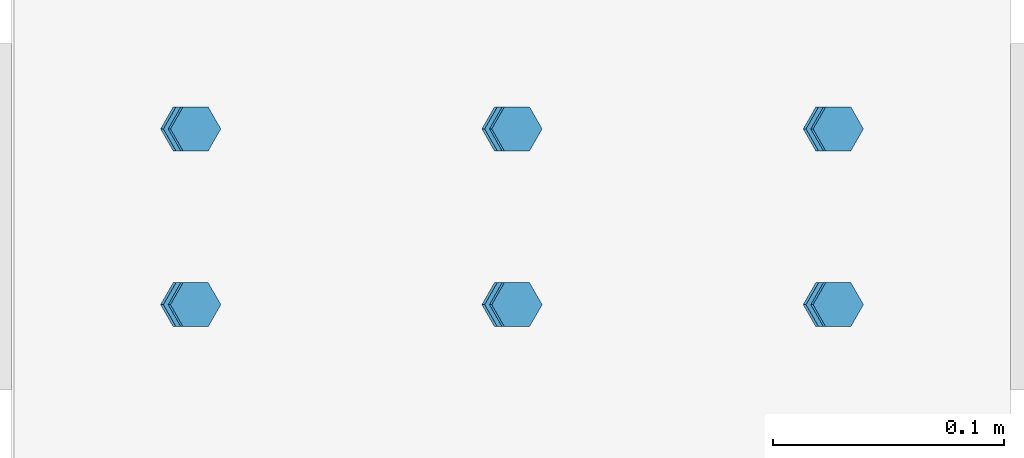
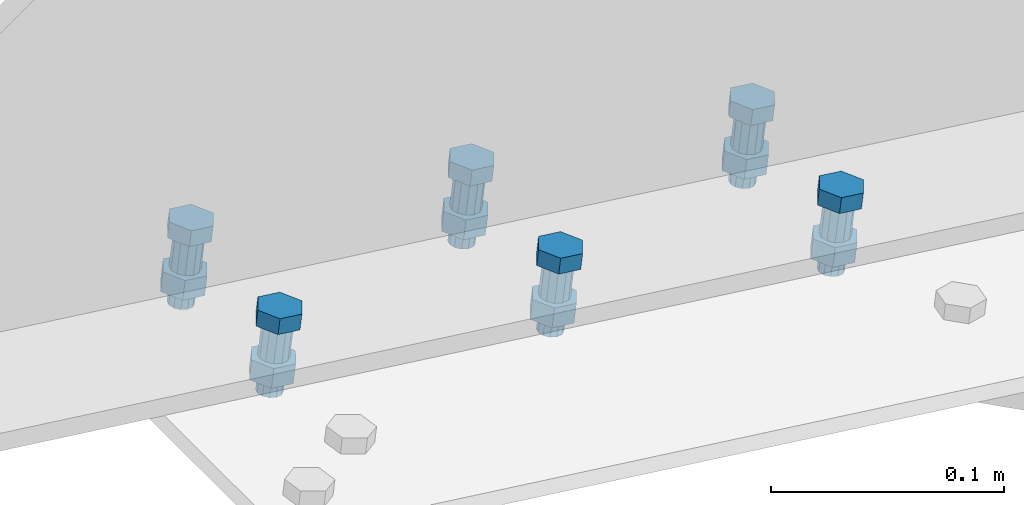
# One storey, part 133 of 3134: 1 mechanical fastener, 1 element without a shape of its own.
"""IFC2X3 building model written with IfcOpenShell, lengths in millimetres."""

from ifc_helpers import new_model, si_unit, frame, origin_with_axes, place, context, subcontext, project, spatial, faceted_brep, source, transform, mapped, material, type_object, element, aggregate, save


model = new_model("IFC2X3")

# Units and contexts
model_context = context("Model", 3, precision=1e-05, world=origin_with_axes())
body_context = subcontext(model_context, "Body", "Model", "MODEL_VIEW")
ifc_project = project(units=[si_unit("LENGTHUNIT", "METRE", prefix="MILLI"), si_unit("AREAUNIT", "SQUARE_METRE"), si_unit("VOLUMEUNIT", "CUBIC_METRE"), si_unit("MASSUNIT", "GRAM", prefix="KILO"), si_unit("TIMEUNIT", "SECOND"), si_unit("PLANEANGLEUNIT", "RADIAN"), si_unit("SOLIDANGLEUNIT", "STERADIAN"), si_unit("THERMODYNAMICTEMPERATUREUNIT", "DEGREE_CELSIUS"), si_unit("LUMINOUSINTENSITYUNIT", "LUMEN")], contexts=[model_context])

# Site, building, storey
site_placement = place(None, origin_with_axes())
site = spatial("IfcSite", under=ifc_project, at=site_placement, CompositionType="ELEMENT")
building_placement = place(site_placement, origin_with_axes())
building = spatial("IfcBuilding", under=site, at=building_placement, Name="Undefined", CompositionType="ELEMENT")
storey_placement = place(building_placement, origin_with_axes())
storey = spatial("IfcBuildingStorey", under=building, at=storey_placement, Name="Undefined", CompositionType="ELEMENT", Elevation=0.0)

# Assembly, mechanical fastener
assembly_placement = place(storey_placement, origin_with_axes())
assembly = element("IfcElementAssembly", 1, at=assembly_placement, inside=storey, Name="300", AssemblyPlace="NOTDEFINED", PredefinedType="RIGID_FRAME")
ifc_material = material(Name="8.8")
mechanical_fastener_type = type_object("IfcMechanicalFastenerType", Name="Bolt assembly")
shared_shape = source(origin_with_axes(), body_context, "Body", "Brep", [
    faceted_brep([(10.9696551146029, -17.1999998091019, 0.0), (5.48482755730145, -17.1999998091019, 9.5), (-5.48482755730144, -17.1999998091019, 9.5), (-10.9696551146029, -17.1999998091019, 1.34339530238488e-15), (-5.48482755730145, -17.1999998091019, -9.5), (5.48482755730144, -17.1999998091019, -9.50000000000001), (5.48482755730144, -9.19999978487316, -9.50000000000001), (-5.48482755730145, -9.19999978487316, -9.5), (-10.9696551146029, -9.19999978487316, 1.34339530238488e-15), (-5.48482755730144, -9.19999978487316, 9.5), (5.48482755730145, -9.19999978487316, 9.5), (10.9696551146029, -9.19999978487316, 0.0), (6.0, -9.19999978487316, 0.0), (5.19615242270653, -9.19999978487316, 3.00000000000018), (2.99999999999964, -9.19999978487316, 5.19615242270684), (-6.21801588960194e-13, -9.19999978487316, 6.0), (-3.00000000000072, -9.19999978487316, 5.19615242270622), (-5.19615242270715, -9.19999978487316, 2.9999999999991), (-6.0, -9.19999978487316, -1.24360317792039e-12), (-5.19615242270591, -9.19999978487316, -3.00000000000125), (-2.99999999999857, -9.19999978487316, -5.19615242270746), (1.85874342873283e-12, -9.19999978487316, -6.0), (3.00000000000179, -9.19999978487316, -5.1961524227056), (5.19615242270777, -9.19999978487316, -2.99999999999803), (5.19615242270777, 25.8000002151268, -2.99999999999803), (3.00000000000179, 25.8000002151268, -5.1961524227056), (1.85874342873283e-12, 25.8000002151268, -6.0), (-2.99999999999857, 25.8000002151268, -5.19615242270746), (-5.19615242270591, 25.8000002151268, -3.00000000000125), (-6.0, 25.8000002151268, -1.24360317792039e-12), (-5.19615242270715, 25.8000002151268, 2.9999999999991), (-3.00000000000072, 25.8000002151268, 5.19615242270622), (-6.21801588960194e-13, 25.8000002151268, 6.0), (2.99999999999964, 25.8000002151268, 5.19615242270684), (5.19615242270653, 25.8000002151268, 3.00000000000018), (6.0, 25.8000002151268, 0.0), (10.9696551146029, 8.0, 0.0), (5.48482755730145, 8.0, 9.5), (-5.48482755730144, 8.0, 9.5), (-10.9696551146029, 8.0, 1.34339530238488e-15), (-5.48482755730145, 8.0, -9.5), (5.48482755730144, 8.0, -9.50000000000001), (5.48482755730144, 18.0, -9.50000000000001), (-5.48482755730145, 18.0, -9.5), (-10.9696551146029, 18.0, 1.34339530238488e-15), (-5.48482755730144, 18.0, 9.5), (5.48482755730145, 18.0, 9.5), (10.9696551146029, 18.0, 0.0)], [[[0, 1, 2, 3, 4, 5]], [[6, 7, 8, 9, 10, 11]], [[0, 11, 10, 1]], [[1, 10, 9, 2]], [[2, 9, 8, 3]], [[3, 8, 7, 4]], [[4, 7, 6, 5]], [[5, 6, 11, 0]], [[12, 13, 14, 15, 16, 17, 18, 19, 20, 21, 22, 23]], [[24, 25, 26, 27, 28, 29, 30, 31, 32, 33, 34, 35]], [[12, 35, 34, 13]], [[13, 34, 33, 14]], [[14, 33, 32, 15]], [[15, 32, 31, 16]], [[16, 31, 30, 17]], [[17, 30, 29, 18]], [[18, 29, 28, 19]], [[19, 28, 27, 20]], [[20, 27, 26, 21]], [[21, 26, 25, 22]], [[22, 25, 24, 23]], [[23, 24, 35, 12]], [[36, 37, 38, 39, 40, 41]], [[42, 43, 44, 45, 46, 47]], [[36, 47, 46, 37]], [[37, 46, 45, 38]], [[38, 45, 44, 39]], [[39, 44, 43, 40]], [[40, 43, 42, 41]], [[41, 42, 47, 36]]]),
    faceted_brep([(7.0, -0.1, 0.0), (6.06217782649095, -0.1, 3.50000000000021), (3.49999999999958, -0.1, 6.06217782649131), (-7.25435187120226e-13, -0.1, 7.0), (-3.50000000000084, -0.1, 6.06217782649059), (-6.06217782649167, -0.1, 3.49999999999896), (-7.0, -0.1, -1.45087037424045e-12), (-6.06217782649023, -0.1, -3.50000000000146), (-3.49999999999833, -0.1, -6.06217782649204), (2.1685340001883e-12, -0.1, -7.0), (3.50000000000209, -0.1, -6.06217782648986), (6.0621778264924, -0.1, -3.4999999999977), (6.0621778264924, 8.0000000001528, -3.4999999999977), (3.50000000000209, 8.0000000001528, -6.06217782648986), (2.1685340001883e-12, 8.0000000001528, -7.0), (-3.49999999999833, 8.0000000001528, -6.06217782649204), (-6.06217782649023, 8.0000000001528, -3.50000000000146), (-7.0, 8.0000000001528, -1.45087037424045e-12), (-6.06217782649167, 8.0000000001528, 3.49999999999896), (-3.50000000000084, 8.0000000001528, 6.06217782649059), (-7.25435187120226e-13, 8.0000000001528, 7.0), (3.49999999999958, 8.0000000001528, 6.06217782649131), (6.06217782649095, 8.0000000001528, 3.50000000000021), (7.0, 8.0000000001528, 0.0), (7.0, -9.09999980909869, 0.0), (6.06217782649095, -9.09999980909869, 3.50000000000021), (3.49999999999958, -9.09999980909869, 6.06217782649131), (-7.25435187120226e-13, -9.09999980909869, 7.0), (-3.50000000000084, -9.09999980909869, 6.06217782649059), (-6.06217782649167, -9.09999980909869, 3.49999999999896), (-7.0, -9.09999980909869, -1.45087037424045e-12), (-6.06217782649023, -9.09999980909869, -3.50000000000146), (-3.49999999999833, -9.09999980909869, -6.06217782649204), (2.1685340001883e-12, -9.09999980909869, -7.0), (3.50000000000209, -9.09999980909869, -6.06217782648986), (6.0621778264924, -9.09999980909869, -3.4999999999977), (6.0621778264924, 0.0999999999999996, -3.4999999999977), (3.50000000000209, 0.0999999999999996, -6.06217782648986), (2.1685340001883e-12, 0.0999999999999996, -7.0), (-3.49999999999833, 0.0999999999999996, -6.06217782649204), (-6.06217782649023, 0.0999999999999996, -3.50000000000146), (-7.0, 0.0999999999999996, -1.45087037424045e-12), (-6.06217782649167, 0.0999999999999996, 3.49999999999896), (-3.50000000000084, 0.0999999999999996, 6.06217782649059), (-7.25435187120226e-13, 0.0999999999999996, 7.0), (3.49999999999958, 0.0999999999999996, 6.06217782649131), (6.06217782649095, 0.0999999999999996, 3.50000000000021), (7.0, 0.0999999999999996, 0.0)], [[[0, 1, 2, 3, 4, 5, 6, 7, 8, 9, 10, 11]], [[12, 13, 14, 15, 16, 17, 18, 19, 20, 21, 22, 23]], [[0, 23, 22, 1]], [[1, 22, 21, 2]], [[2, 21, 20, 3]], [[3, 20, 19, 4]], [[4, 19, 18, 5]], [[5, 18, 17, 6]], [[6, 17, 16, 7]], [[7, 16, 15, 8]], [[8, 15, 14, 9]], [[9, 14, 13, 10]], [[10, 13, 12, 11]], [[11, 12, 23, 0]], [[24, 25, 26, 27, 28, 29, 30, 31, 32, 33, 34, 35]], [[36, 37, 38, 39, 40, 41, 42, 43, 44, 45, 46, 47]], [[24, 47, 46, 25]], [[25, 46, 45, 26]], [[26, 45, 44, 27]], [[27, 44, 43, 28]], [[28, 43, 42, 29]], [[29, 42, 41, 30]], [[30, 41, 40, 31]], [[31, 40, 39, 32]], [[32, 39, 38, 33]], [[33, 38, 37, 34]], [[34, 37, 36, 35]], [[35, 36, 47, 24]]]),
])
mechanical_fastener_placement = place(assembly_placement, frame((58933.2022067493, 12370.0, 5146.259936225), z_axis=(0.0, -1.0, 0.0), x_axis=(-0.992623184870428, 0.0, 0.121240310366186)))
mechanical_fastener = element("IfcMechanicalFastener", 2, at=mechanical_fastener_placement, type_object=mechanical_fastener_type, material=ifc_material, Name="Bolt assembly", NominalDiameter=12.0, NominalLength=35.0, context=body_context, shape_type="MappedRepresentation", body=[
    mapped(shared_shape, transform((0.0, 0.0, -38.0))),
    mapped(shared_shape, transform((140.000000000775, 5.85714587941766e-10, -38.0))),
    mapped(shared_shape, transform((279.999999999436, -4.74756234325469e-10, -38.0))),
    mapped(shared_shape, transform((0.0, 0.0, 38.0))),
    mapped(shared_shape, transform((140.000000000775, 5.85714587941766e-10, 38.0))),
    mapped(shared_shape, transform((279.999999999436, -4.74756234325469e-10, 38.0))),
])
aggregate(assembly, [mechanical_fastener])

save(model, "model.ifc")
